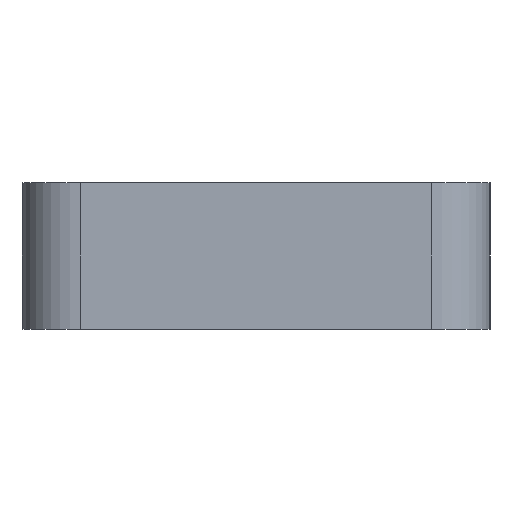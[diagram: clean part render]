
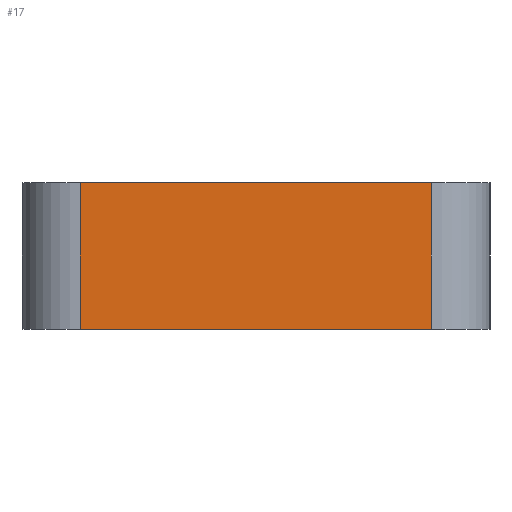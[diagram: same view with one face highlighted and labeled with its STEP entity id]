
A CAD part, left-side view. The second image highlights one B-rep face of the part: STEP entity #17.
In plain terms, the highlighted planar face has unit normal (-1, 0, 0).
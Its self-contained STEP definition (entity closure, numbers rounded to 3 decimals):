
#17 = ADVANCED_FACE('',(#18),#32,.F.);
#18 = FACE_BOUND('',#19,.F.);
#19 = EDGE_LOOP('',(#20,#55,#83,#111));
#20 = ORIENTED_EDGE('',*,*,#21,.F.);
#21 = EDGE_CURVE('',#22,#24,#26,.T.);
#22 = VERTEX_POINT('',#23);
#23 = CARTESIAN_POINT('',(0.,2.,5.));
#24 = VERTEX_POINT('',#25);
#25 = CARTESIAN_POINT('',(0.,14.,5.));
#26 = SURFACE_CURVE('',#27,(#31,#43),.PCURVE_S1.);
#27 = LINE('',#28,#29);
#28 = CARTESIAN_POINT('',(0.,0.,5.));
#29 = VECTOR('',#30,1.);
#30 = DIRECTION('',(0.,1.,0.));
#31 = PCURVE('',#32,#37);
#32 = PLANE('',#33);
#33 = AXIS2_PLACEMENT_3D('',#34,#35,#36);
#34 = CARTESIAN_POINT('',(0.,0.,0.));
#35 = DIRECTION('',(1.,0.,0.));
#36 = DIRECTION('',(0.,0.,1.));
#37 = DEFINITIONAL_REPRESENTATION('',(#38),#42);
#38 = LINE('',#39,#40);
#39 = CARTESIAN_POINT('',(5.,0.));
#40 = VECTOR('',#41,1.);
#41 = DIRECTION('',(0.,-1.));
#42 = ( GEOMETRIC_REPRESENTATION_CONTEXT(2) 
PARAMETRIC_REPRESENTATION_CONTEXT() REPRESENTATION_CONTEXT('2D SPACE',''
  ) );
#43 = PCURVE('',#44,#49);
#44 = PLANE('',#45);
#45 = AXIS2_PLACEMENT_3D('',#46,#47,#48);
#46 = CARTESIAN_POINT('',(0.,0.,5.));
#47 = DIRECTION('',(0.,0.,1.));
#48 = DIRECTION('',(1.,0.,0.));
#49 = DEFINITIONAL_REPRESENTATION('',(#50),#54);
#50 = LINE('',#51,#52);
#51 = CARTESIAN_POINT('',(0.,0.));
#52 = VECTOR('',#53,1.);
#53 = DIRECTION('',(0.,1.));
#54 = ( GEOMETRIC_REPRESENTATION_CONTEXT(2) 
PARAMETRIC_REPRESENTATION_CONTEXT() REPRESENTATION_CONTEXT('2D SPACE',''
  ) );
#55 = ORIENTED_EDGE('',*,*,#56,.F.);
#56 = EDGE_CURVE('',#57,#22,#59,.T.);
#57 = VERTEX_POINT('',#58);
#58 = CARTESIAN_POINT('',(0.,2.,0.));
#59 = SURFACE_CURVE('',#60,(#64,#71),.PCURVE_S1.);
#60 = LINE('',#61,#62);
#61 = CARTESIAN_POINT('',(0.,2.,0.));
#62 = VECTOR('',#63,1.);
#63 = DIRECTION('',(0.,0.,1.));
#64 = PCURVE('',#32,#65);
#65 = DEFINITIONAL_REPRESENTATION('',(#66),#70);
#66 = LINE('',#67,#68);
#67 = CARTESIAN_POINT('',(0.,-2.));
#68 = VECTOR('',#69,1.);
#69 = DIRECTION('',(1.,0.));
#70 = ( GEOMETRIC_REPRESENTATION_CONTEXT(2) 
PARAMETRIC_REPRESENTATION_CONTEXT() REPRESENTATION_CONTEXT('2D SPACE',''
  ) );
#71 = PCURVE('',#72,#77);
#72 = CYLINDRICAL_SURFACE('',#73,2.);
#73 = AXIS2_PLACEMENT_3D('',#74,#75,#76);
#74 = CARTESIAN_POINT('',(2.,2.,0.));
#75 = DIRECTION('',(0.,0.,1.));
#76 = DIRECTION('',(-1.,-0.,0.));
#77 = DEFINITIONAL_REPRESENTATION('',(#78),#82);
#78 = LINE('',#79,#80);
#79 = CARTESIAN_POINT('',(0.,0.));
#80 = VECTOR('',#81,1.);
#81 = DIRECTION('',(0.,1.));
#82 = ( GEOMETRIC_REPRESENTATION_CONTEXT(2) 
PARAMETRIC_REPRESENTATION_CONTEXT() REPRESENTATION_CONTEXT('2D SPACE',''
  ) );
#83 = ORIENTED_EDGE('',*,*,#84,.T.);
#84 = EDGE_CURVE('',#57,#85,#87,.T.);
#85 = VERTEX_POINT('',#86);
#86 = CARTESIAN_POINT('',(0.,14.,0.));
#87 = SURFACE_CURVE('',#88,(#92,#99),.PCURVE_S1.);
#88 = LINE('',#89,#90);
#89 = CARTESIAN_POINT('',(0.,0.,0.));
#90 = VECTOR('',#91,1.);
#91 = DIRECTION('',(0.,1.,0.));
#92 = PCURVE('',#32,#93);
#93 = DEFINITIONAL_REPRESENTATION('',(#94),#98);
#94 = LINE('',#95,#96);
#95 = CARTESIAN_POINT('',(0.,0.));
#96 = VECTOR('',#97,1.);
#97 = DIRECTION('',(0.,-1.));
#98 = ( GEOMETRIC_REPRESENTATION_CONTEXT(2) 
PARAMETRIC_REPRESENTATION_CONTEXT() REPRESENTATION_CONTEXT('2D SPACE',''
  ) );
#99 = PCURVE('',#100,#105);
#100 = PLANE('',#101);
#101 = AXIS2_PLACEMENT_3D('',#102,#103,#104);
#102 = CARTESIAN_POINT('',(0.,0.,0.));
#103 = DIRECTION('',(0.,0.,1.));
#104 = DIRECTION('',(1.,0.,0.));
#105 = DEFINITIONAL_REPRESENTATION('',(#106),#110);
#106 = LINE('',#107,#108);
#107 = CARTESIAN_POINT('',(0.,0.));
#108 = VECTOR('',#109,1.);
#109 = DIRECTION('',(0.,1.));
#110 = ( GEOMETRIC_REPRESENTATION_CONTEXT(2) 
PARAMETRIC_REPRESENTATION_CONTEXT() REPRESENTATION_CONTEXT('2D SPACE',''
  ) );
#111 = ORIENTED_EDGE('',*,*,#112,.T.);
#112 = EDGE_CURVE('',#85,#24,#113,.T.);
#113 = SURFACE_CURVE('',#114,(#118,#125),.PCURVE_S1.);
#114 = LINE('',#115,#116);
#115 = CARTESIAN_POINT('',(0.,14.,0.));
#116 = VECTOR('',#117,1.);
#117 = DIRECTION('',(0.,0.,1.));
#118 = PCURVE('',#32,#119);
#119 = DEFINITIONAL_REPRESENTATION('',(#120),#124);
#120 = LINE('',#121,#122);
#121 = CARTESIAN_POINT('',(0.,-14.));
#122 = VECTOR('',#123,1.);
#123 = DIRECTION('',(1.,0.));
#124 = ( GEOMETRIC_REPRESENTATION_CONTEXT(2) 
PARAMETRIC_REPRESENTATION_CONTEXT() REPRESENTATION_CONTEXT('2D SPACE',''
  ) );
#125 = PCURVE('',#126,#131);
#126 = CYLINDRICAL_SURFACE('',#127,2.);
#127 = AXIS2_PLACEMENT_3D('',#128,#129,#130);
#128 = CARTESIAN_POINT('',(2.,14.,0.));
#129 = DIRECTION('',(0.,0.,1.));
#130 = DIRECTION('',(-1.,-0.,0.));
#131 = DEFINITIONAL_REPRESENTATION('',(#132),#136);
#132 = LINE('',#133,#134);
#133 = CARTESIAN_POINT('',(-0.,0.));
#134 = VECTOR('',#135,1.);
#135 = DIRECTION('',(-0.,1.));
#136 = ( GEOMETRIC_REPRESENTATION_CONTEXT(2) 
PARAMETRIC_REPRESENTATION_CONTEXT() REPRESENTATION_CONTEXT('2D SPACE',''
  ) );
